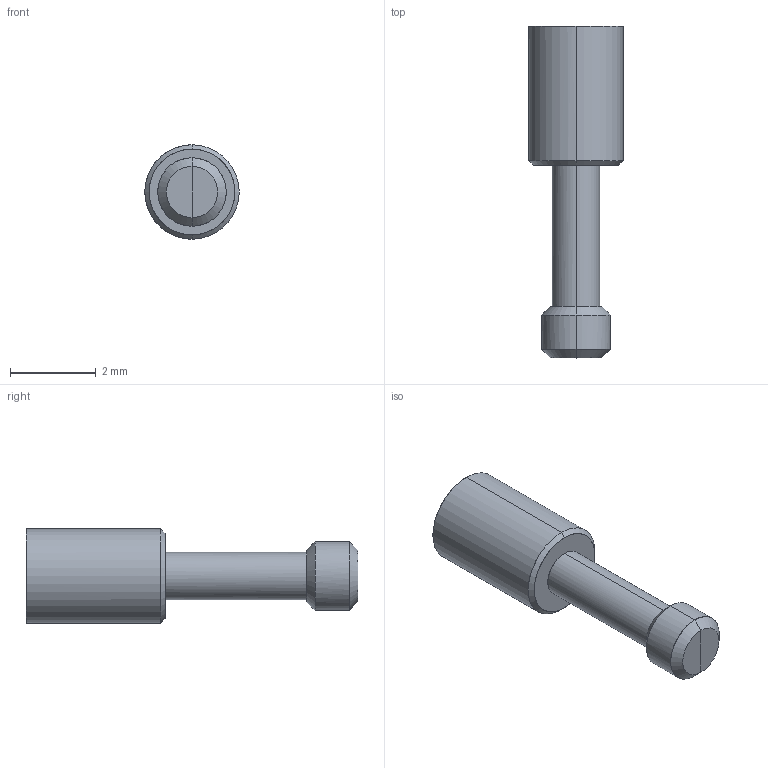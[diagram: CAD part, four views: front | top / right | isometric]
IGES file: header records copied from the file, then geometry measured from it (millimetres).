
Start section: START RECORD GO HERE.
Global section: file name: ia2275sf.igs; native system: DASSAULT SYSTEMES CATIA V5 R20 - www.3ds.com; preprocessor: CATIA Version 5 Release 20 ; author: Utente; organization: NB04-ASUS; date: 20201108.074535; units: millimetre
Bounding box: 2.2 x 7.75 x 2.2 mm (x, y, z)
Surface area: 49.3 mm2 (no closed solid volume)
Topology: 0 solids, 0 shells, 26 faces, 114 edges, 112 vertices
Faces by surface type: revolution 16, plane 10
